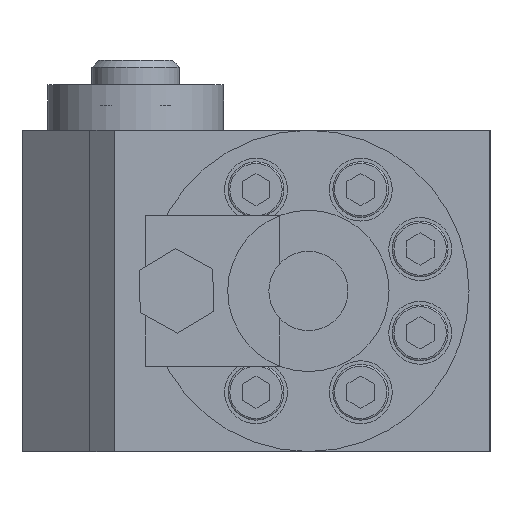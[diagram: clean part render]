
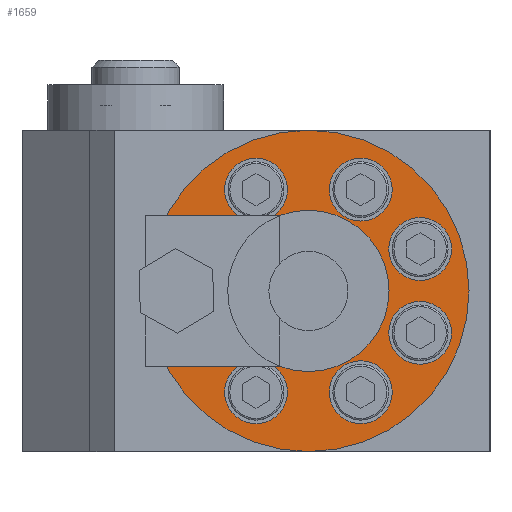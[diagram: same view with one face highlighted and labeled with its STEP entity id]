
A CAD part, left-side view. The second image highlights one B-rep face of the part: STEP entity #1659.
In plain terms, the highlighted planar face has unit normal (-1, 0, 0).
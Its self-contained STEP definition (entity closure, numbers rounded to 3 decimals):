
#1659=ADVANCED_FACE('',(#2959,#2960,#2961,#2962,#2963,#2964,#2965,#2966,
#2967),#2324,.F.);
#2324=PLANE('',#13128);
#2959=FACE_BOUND('',#3827,.T.);
#2960=FACE_BOUND('',#3828,.T.);
#2961=FACE_BOUND('',#3829,.T.);
#2962=FACE_BOUND('',#3830,.T.);
#2963=FACE_BOUND('',#3831,.T.);
#2964=FACE_BOUND('',#3832,.T.);
#2965=FACE_BOUND('',#3833,.T.);
#2966=FACE_BOUND('',#3834,.T.);
#2967=FACE_BOUND('',#3835,.T.);
#3827=EDGE_LOOP('',(#6284));
#3828=EDGE_LOOP('',(#6285));
#3829=EDGE_LOOP('',(#6286));
#3830=EDGE_LOOP('',(#6287));
#3831=EDGE_LOOP('',(#6288));
#3832=EDGE_LOOP('',(#6289));
#3833=EDGE_LOOP('',(#6290));
#3834=EDGE_LOOP('',(#6291));
#3835=EDGE_LOOP('',(#6292));
#4861=CIRCLE('',#13117,46.);
#4863=CIRCLE('',#13120,9.);
#4864=CIRCLE('',#13121,9.);
#4865=CIRCLE('',#13122,9.);
#4866=CIRCLE('',#13123,9.);
#4867=CIRCLE('',#13124,9.);
#4868=CIRCLE('',#13125,9.);
#4869=CIRCLE('',#13126,9.);
#4870=CIRCLE('',#13127,9.);
#6284=ORIENTED_EDGE('',*,*,#9908,.T.);
#6285=ORIENTED_EDGE('',*,*,#9909,.T.);
#6286=ORIENTED_EDGE('',*,*,#9910,.T.);
#6287=ORIENTED_EDGE('',*,*,#9911,.T.);
#6288=ORIENTED_EDGE('',*,*,#9912,.T.);
#6289=ORIENTED_EDGE('',*,*,#9913,.T.);
#6290=ORIENTED_EDGE('',*,*,#9914,.T.);
#6291=ORIENTED_EDGE('',*,*,#9915,.T.);
#6292=ORIENTED_EDGE('',*,*,#9906,.F.);
#8625=VERTEX_POINT('',#18751);
#8627=VERTEX_POINT('',#18756);
#8628=VERTEX_POINT('',#18758);
#8629=VERTEX_POINT('',#18760);
#8630=VERTEX_POINT('',#18762);
#8631=VERTEX_POINT('',#18764);
#8632=VERTEX_POINT('',#18766);
#8633=VERTEX_POINT('',#18768);
#8634=VERTEX_POINT('',#18770);
#9906=EDGE_CURVE('',#8625,#8625,#4861,.T.);
#9908=EDGE_CURVE('',#8627,#8627,#4863,.T.);
#9909=EDGE_CURVE('',#8628,#8628,#4864,.T.);
#9910=EDGE_CURVE('',#8629,#8629,#4865,.T.);
#9911=EDGE_CURVE('',#8630,#8630,#4866,.T.);
#9912=EDGE_CURVE('',#8631,#8631,#4867,.T.);
#9913=EDGE_CURVE('',#8632,#8632,#4868,.T.);
#9914=EDGE_CURVE('',#8633,#8633,#4869,.T.);
#9915=EDGE_CURVE('',#8634,#8634,#4870,.T.);
#13117=AXIS2_PLACEMENT_3D('',#18750,#15261,#15262);
#13120=AXIS2_PLACEMENT_3D('',#18755,#15267,#15268);
#13121=AXIS2_PLACEMENT_3D('',#18757,#15269,#15270);
#13122=AXIS2_PLACEMENT_3D('',#18759,#15271,#15272);
#13123=AXIS2_PLACEMENT_3D('',#18761,#15273,#15274);
#13124=AXIS2_PLACEMENT_3D('',#18763,#15275,#15276);
#13125=AXIS2_PLACEMENT_3D('',#18765,#15277,#15278);
#13126=AXIS2_PLACEMENT_3D('',#18767,#15279,#15280);
#13127=AXIS2_PLACEMENT_3D('',#18769,#15281,#15282);
#13128=AXIS2_PLACEMENT_3D('',#18771,#15283,#15284);
#15261=DIRECTION('',(1.,0.,0.));
#15262=DIRECTION('',(0.,0.,-1.));
#15267=DIRECTION('',(1.,0.,0.));
#15268=DIRECTION('',(0.,0.,1.));
#15269=DIRECTION('',(1.,0.,0.));
#15270=DIRECTION('',(0.,0.,1.));
#15271=DIRECTION('',(1.,0.,0.));
#15272=DIRECTION('',(0.,0.,1.));
#15273=DIRECTION('',(1.,0.,0.));
#15274=DIRECTION('',(0.,0.,1.));
#15275=DIRECTION('',(1.,0.,0.));
#15276=DIRECTION('',(0.,0.,1.));
#15277=DIRECTION('',(1.,0.,0.));
#15278=DIRECTION('',(0.,0.,1.));
#15279=DIRECTION('',(1.,0.,0.));
#15280=DIRECTION('',(0.,0.,1.));
#15281=DIRECTION('',(1.,0.,0.));
#15282=DIRECTION('',(0.,0.,1.));
#15283=DIRECTION('',(1.,0.,0.));
#15284=DIRECTION('',(0.,1.,0.));
#18750=CARTESIAN_POINT('',(-108.529,-2.705,46.));
#18751=CARTESIAN_POINT('',(-108.529,-2.705,0.));
#18755=CARTESIAN_POINT('',(-108.529,12.295,17.));
#18756=CARTESIAN_POINT('',(-108.529,12.295,26.));
#18757=CARTESIAN_POINT('',(-108.529,12.295,75.));
#18758=CARTESIAN_POINT('',(-108.529,12.295,84.));
#18759=CARTESIAN_POINT('',(-108.529,-17.705,75.));
#18760=CARTESIAN_POINT('',(-108.529,-17.705,84.));
#18761=CARTESIAN_POINT('',(-108.529,-17.705,17.));
#18762=CARTESIAN_POINT('',(-108.529,-17.705,26.));
#18763=CARTESIAN_POINT('',(-108.529,29.295,34.));
#18764=CARTESIAN_POINT('',(-108.529,29.295,43.));
#18765=CARTESIAN_POINT('',(-108.529,29.295,58.));
#18766=CARTESIAN_POINT('',(-108.529,29.295,67.));
#18767=CARTESIAN_POINT('',(-108.529,-34.705,58.));
#18768=CARTESIAN_POINT('',(-108.529,-34.705,67.));
#18769=CARTESIAN_POINT('',(-108.529,-34.705,34.));
#18770=CARTESIAN_POINT('',(-108.529,-34.705,43.));
#18771=CARTESIAN_POINT('',(-108.529,-2.705,46.));
